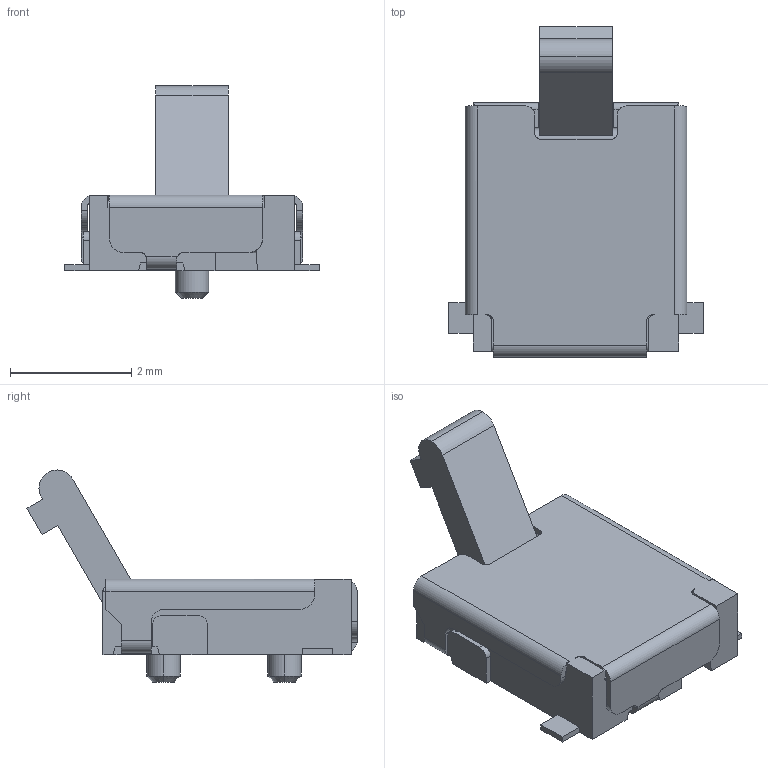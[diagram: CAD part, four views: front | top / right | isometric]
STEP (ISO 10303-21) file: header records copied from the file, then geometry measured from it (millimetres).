
FILE_DESCRIPTION (( 'STEP AP203' ), '1' );
FILE_NAME ('TU-UCF.STEP', '2014-05-08T01:36:24', ( 'Dip' ), ( '' ), 'SwSTEP 2.0', 'SolidWorks 2008', '' );
FILE_SCHEMA (( 'CONFIG_CONTROL_DESIGN' ));
Length unit declared in the file: millimetre
Products named in the file (1): TU-UCF
Bounding box: 4.2 x 5.46 x 3.51 mm (x, y, z)
Volume: 15.4 mm3; surface area: 119.1 mm2
Topology: 2 solids, 2 shells, 292 faces, 836 edges, 550 vertices
Faces by surface type: plane 188, cylinder 84, bspline 10, cone 8, torus 2
Entity records: 9714 total; most frequent: CARTESIAN_POINT 1928, ORIENTED_EDGE 1672, DIRECTION 1568, EDGE_CURVE 836, VECTOR 604, LINE 604, VERTEX_POINT 550, AXIS2_PLACEMENT_3D 482
